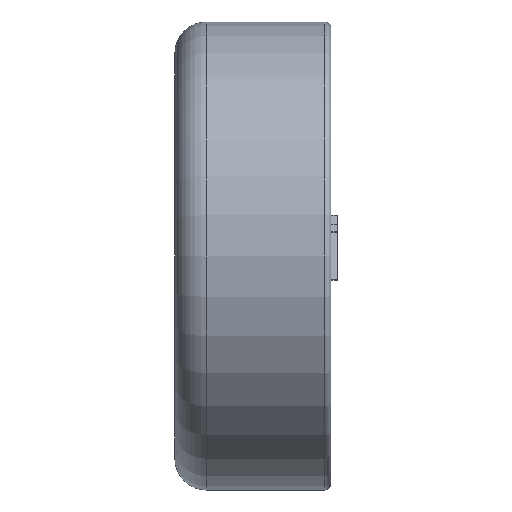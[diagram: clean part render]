
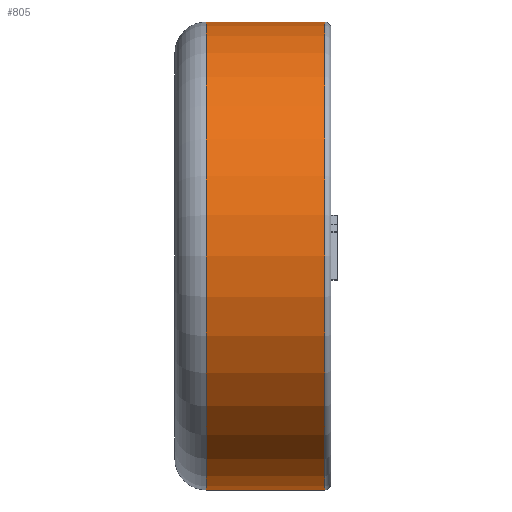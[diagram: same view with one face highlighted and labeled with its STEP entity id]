
A CAD part, left-side view. The second image highlights one B-rep face of the part: STEP entity #805.
In plain terms, the highlighted cylindrical face has radius 3.75 mm (diameter 7.5 mm), a partial arc.
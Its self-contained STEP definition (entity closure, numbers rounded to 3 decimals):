
#304 = CARTESIAN_POINT ( 'NONE',  ( 0., 2., 3.75 ) ) ;
#459 = ORIENTED_EDGE ( 'NONE', *, *, #1965, .F. ) ;
#470 = CARTESIAN_POINT ( 'NONE',  ( 0., 2., 0. ) ) ;
#493 = AXIS2_PLACEMENT_3D ( 'NONE', #470, #3122, #856 ) ;
#571 = DIRECTION ( 'NONE',  ( 0., 0., -1. ) ) ;
#617 = EDGE_CURVE ( 'NONE', #765, #3963, #4772, .T. ) ;
#718 = CARTESIAN_POINT ( 'NONE',  ( 0., 2.5, 3.75 ) ) ;
#765 = VERTEX_POINT ( 'NONE', #4304 ) ;
#805 = ADVANCED_FACE ( 'NONE', ( #4060 ), #1925, .T. ) ;
#832 = VERTEX_POINT ( 'NONE', #3246 ) ;
#856 = DIRECTION ( 'NONE',  ( 0., 0., 1. ) ) ;
#940 = ORIENTED_EDGE ( 'NONE', *, *, #4175, .T. ) ;
#965 = DIRECTION ( 'NONE',  ( 0., -1., 0. ) ) ;
#1064 = EDGE_LOOP ( 'NONE', ( #459, #940, #2789, #3314 ) ) ;
#1065 = VERTEX_POINT ( 'NONE', #304 ) ;
#1137 = CARTESIAN_POINT ( 'NONE',  ( 0., 0.1, 3.75 ) ) ;
#1145 = CARTESIAN_POINT ( 'NONE',  ( 0., 0.1, 0. ) ) ;
#1324 = LINE ( 'NONE', #4746, #4226 ) ;
#1454 = VECTOR ( 'NONE', #4496, 1000. ) ;
#1534 = DIRECTION ( 'NONE',  ( 0., 0., 1. ) ) ;
#1925 = CYLINDRICAL_SURFACE ( 'NONE', #2688, 3.75 ) ;
#1965 = EDGE_CURVE ( 'NONE', #1065, #3963, #3463, .T. ) ;
#2034 = CIRCLE ( 'NONE', #493, 3.75 ) ;
#2102 = CARTESIAN_POINT ( 'NONE',  ( 0., 2.5, 0. ) ) ;
#2688 = AXIS2_PLACEMENT_3D ( 'NONE', #2102, #965, #571 ) ;
#2789 = ORIENTED_EDGE ( 'NONE', *, *, #2810, .T. ) ;
#2810 = EDGE_CURVE ( 'NONE', #832, #765, #1324, .T. ) ;
#3122 = DIRECTION ( 'NONE',  ( 0., -1., 0. ) ) ;
#3246 = CARTESIAN_POINT ( 'NONE',  ( 0., 2., -3.75 ) ) ;
#3314 = ORIENTED_EDGE ( 'NONE', *, *, #617, .T. ) ;
#3463 = LINE ( 'NONE', #718, #1454 ) ;
#3800 = DIRECTION ( 'NONE',  ( 0., 1., 0. ) ) ;
#3963 = VERTEX_POINT ( 'NONE', #1137 ) ;
#4049 = AXIS2_PLACEMENT_3D ( 'NONE', #1145, #3800, #1534 ) ;
#4060 = FACE_OUTER_BOUND ( 'NONE', #1064, .T. ) ;
#4175 = EDGE_CURVE ( 'NONE', #1065, #832, #2034, .T. ) ;
#4226 = VECTOR ( 'NONE', #4817, 1000. ) ;
#4304 = CARTESIAN_POINT ( 'NONE',  ( 0., 0.1, -3.75 ) ) ;
#4496 = DIRECTION ( 'NONE',  ( 0., -1., 0. ) ) ;
#4746 = CARTESIAN_POINT ( 'NONE',  ( 0., 2.5, -3.75 ) ) ;
#4772 = CIRCLE ( 'NONE', #4049, 3.75 ) ;
#4817 = DIRECTION ( 'NONE',  ( 0., -1., 0. ) ) ;
